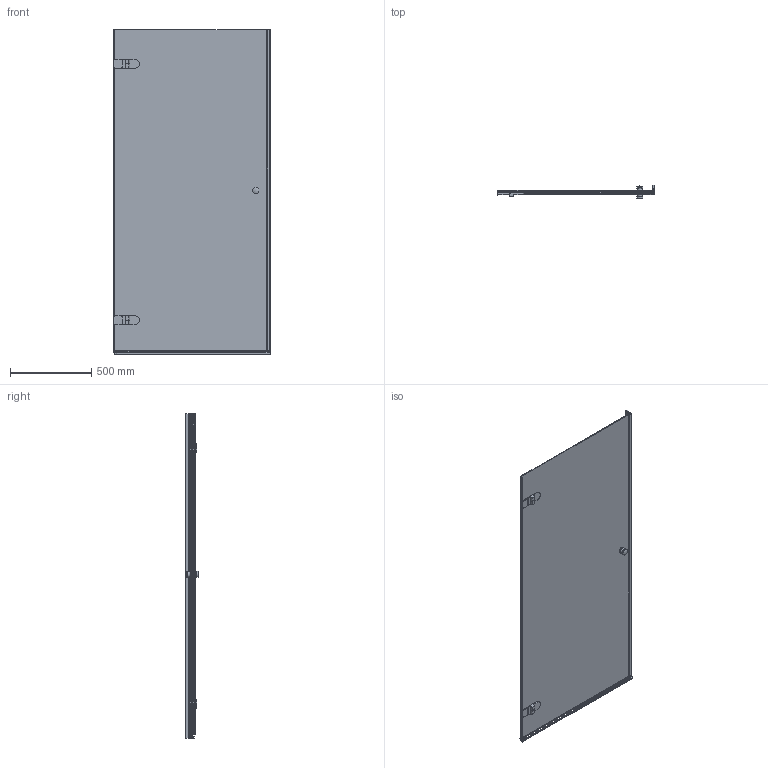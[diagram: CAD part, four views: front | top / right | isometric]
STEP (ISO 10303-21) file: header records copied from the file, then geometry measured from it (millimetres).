
FILE_DESCRIPTION(/* description */ (''),/* implementation_level */ '2;1');
FILE_NAME(/* name */ 'D:\1\LUX DOOR GK-001-2511\LUX DOOR GK-001-2511 левая модель\Вспомогательные файлы конструктора\LUX DOOR GK-001-2511 ЛЕВАЯ-3D.stp',/* time_stamp */ '2017-07-18T15:42:16+03:00',/* author */ ('ChechurovS'),/* organization */ (''),/* preprocessor_version */ 'ST-DEVELOPER v15.2',/* originating_system */ 'Autodesk Inventor 2014',/* authorisation */ '');
FILE_SCHEMA (('CONFIG_CONTROL_DESIGN'));
Length unit declared in the file: millimetre
Products named in the file (1): LUX DOOR GK-001-2511 ЛЕВАЯ-3D
Bounding box: 966.5 x 83 x 2000 mm (x, y, z)
Volume: 12719476.2 mm3; surface area: 4363034.3 mm2
Topology: 3 solids, 5 shells, 497 faces, 1213 edges, 735 vertices
Faces by surface type: plane 361, cylinder 118, torus 12, bspline 4, sphere 2
Full cylindrical faces by diameter (mm): 38 x4
Entity records: 15202 total; most frequent: CARTESIAN_POINT 2998, ORIENTED_EDGE 2416, DIRECTION 2394, EDGE_CURVE 1206, LINE 918, VECTOR 918, AXIS2_PLACEMENT_3D 738, VERTEX_POINT 735
